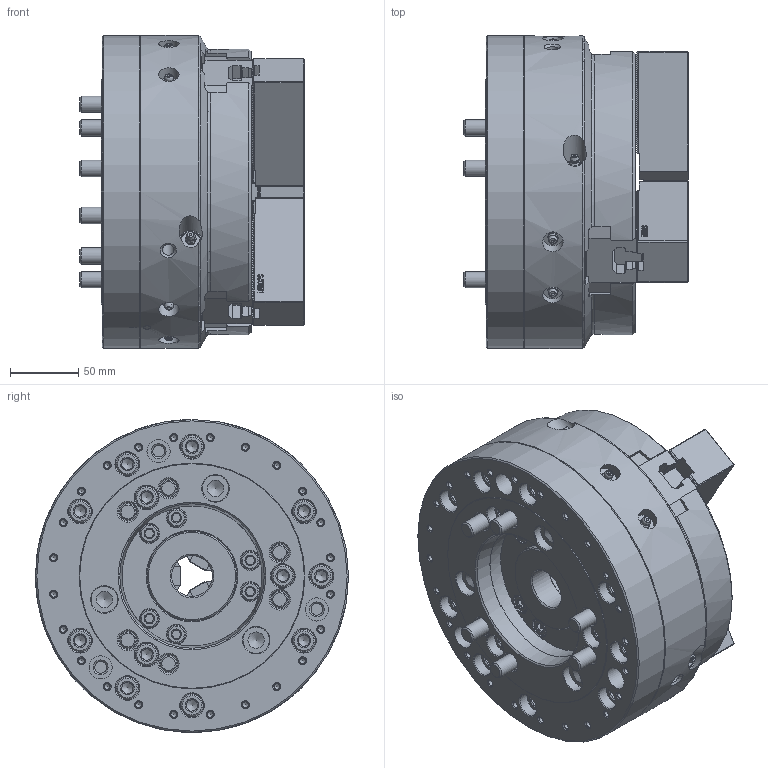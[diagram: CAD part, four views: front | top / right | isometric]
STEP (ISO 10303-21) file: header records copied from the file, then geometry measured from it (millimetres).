
FILE_DESCRIPTION (( 'STEP AP214' ), '1' );
FILE_NAME ('DT1_HOH-208_OUTSIDE_VIEW_OC.STEP', '2024-05-09T06:43:52', ( '' ), ( '' ), 'SwSTEP 2.0', 'SolidWorks 2022', '' );
FILE_SCHEMA (( 'AUTOMOTIVE_DESIGN' ));
Length unit declared in the file: millimetre
Products named in the file (9): DT1_HOH-208_M12x110^DT1_HOH-208_ﾃﾞﾌｫﾙﾄ; DT1_HOH-208_M5x10^DT1_HOH-208_ﾃﾞﾌｫﾙﾄ; DT1_HOH-208_BASE^DT1_HOH-208_ﾃﾞﾌｫﾙﾄ; DT1_HOH-208_DRAWNUT^DT1_HOH-208_ﾃﾞﾌｫﾙﾄ; DT1_HOH-208_M12x30^DT1_HOH-208_ﾃﾞﾌｫﾙﾄ; DT1_HOH-208_OUTSIDE_VIEW_OC; DT1_HOH-208_COVER^DT1_HOH-208_ﾃﾞﾌｫﾙﾄ; DT1_HOH-208_SOFTJAW^DT1_HOH-208_ﾃﾞﾌｫﾙﾄ; DT1_HOH-208_TNUT^DT1_HOH-208_ﾃﾞﾌｫﾙﾄ
Assembly tree (24 placements, depth 2):
  DT1_HOH-208_OUTSIDE_VIEW_OC
    DT1_HOH-208_SOFTJAW^DT1_HOH-208_ﾃﾞﾌｫﾙﾄ  x3
    DT1_HOH-208_TNUT^DT1_HOH-208_ﾃﾞﾌｫﾙﾄ  x3
    DT1_HOH-208_DRAWNUT^DT1_HOH-208_ﾃﾞﾌｫﾙﾄ
    DT1_HOH-208_COVER^DT1_HOH-208_ﾃﾞﾌｫﾙﾄ
    DT1_HOH-208_BASE^DT1_HOH-208_ﾃﾞﾌｫﾙﾄ
    DT1_HOH-208_M5x10^DT1_HOH-208_ﾃﾞﾌｫﾙﾄ  x3
    DT1_HOH-208_M12x30^DT1_HOH-208_ﾃﾞﾌｫﾙﾄ  x6
    DT1_HOH-208_M12x110^DT1_HOH-208_ﾃﾞﾌｫﾙﾄ  x6
Bounding box: 165 x 230 x 230 mm (x, y, z)
Volume: 4151936.1 mm3; surface area: 446196.9 mm2
Topology: 24 solids, 33 shells, 4453 faces, 12311 edges, 8102 vertices
Faces by surface type: plane 3021, cylinder 596, bspline 454, cone 328, torus 39, sphere 15
Full cylindrical faces by diameter (mm): 2 x3, 4.2 x3, 4.3 x24, 5 x3, 5.5 x3, 8.6 x5, 9.5 x3, 10 x3, 10.2 x6, 12 x12, 13 x6, 13.27 x6, 13.5 x12, 14 x6, 15 x6, 16 x3, 16.27 x12, 17 x18, 18.27 x12, 19 x6, 19.46 x3, 20 x6, 30 x1, 52 x1, 56 x2, 61 x1, 64.8 x2, 66 x2, 72 x2, 103 x1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
Entity records: 105904 total; most frequent: CARTESIAN_POINT 33151, ORIENTED_EDGE 15702, DIRECTION 12926, EDGE_CURVE 7851, LINE 5660, VECTOR 5660, VERTEX_POINT 5342, AXIS2_PLACEMENT_3D 3633
